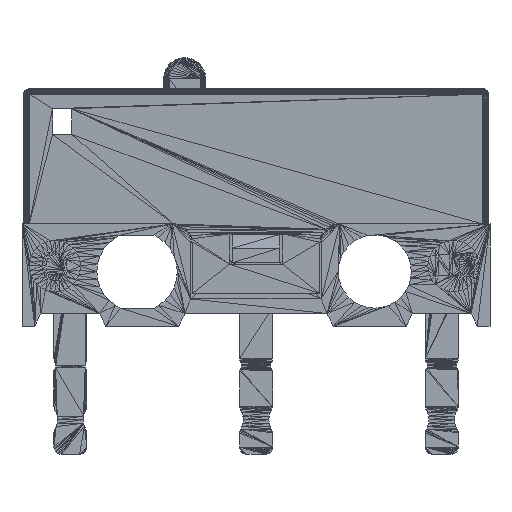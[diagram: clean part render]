
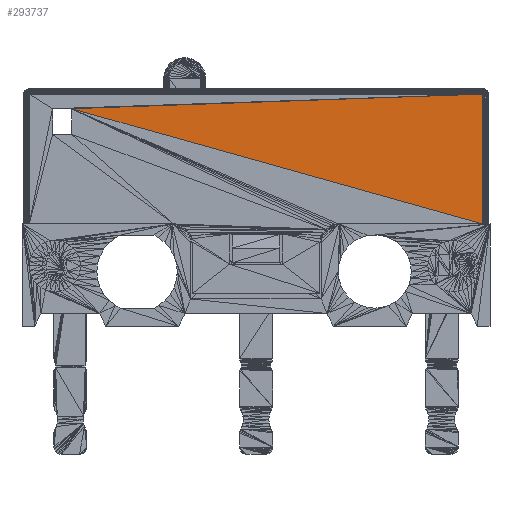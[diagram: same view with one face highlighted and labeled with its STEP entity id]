
A CAD part, front view. The second image highlights one B-rep face of the part: STEP entity #293737.
In plain terms, the highlighted planar face has unit normal (0, -1, 0).
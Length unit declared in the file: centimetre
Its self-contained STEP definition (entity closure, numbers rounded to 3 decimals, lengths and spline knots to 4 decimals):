
#12122=DIRECTION('',(0.,0.,-1.));
#23811=DIRECTION('',(-0.963,0.,0.27));
#23812=DIRECTION('',(-0.999,0.,-0.036));
#35844=VECTOR('',#12122,1.);
#47533=VECTOR('',#23811,1.);
#47534=VECTOR('',#23812,1.);
#49089=CARTESIAN_POINT('',(1.0293,-0.285,0.333));
#49090=CARTESIAN_POINT('',(1.0293,-0.285,-0.022));
#52374=CARTESIAN_POINT('',(-0.0942,-0.285,0.293));
#59051=VERTEX_POINT('',#49089);
#59052=VERTEX_POINT('',#49090);
#62336=VERTEX_POINT('',#52374);
#77640=LINE('',#49089,#47534);
#78056=LINE('',#49090,#47533);
#78057=LINE('',#49089,#35844);
#107550=EDGE_CURVE('',#59051,#62336,#77640,.T.);
#107966=EDGE_CURVE('',#59052,#62336,#78056,.T.);
#107967=EDGE_CURVE('',#59051,#59052,#78057,.T.);
#137460=ORIENTED_EDGE('',*,*,#107550,.T.);
#167786=ORIENTED_EDGE('',*,*,#107966,.F.);
#167787=ORIENTED_EDGE('',*,*,#107967,.F.);
#194052=EDGE_LOOP('',(#167786,#167787,#137460));
#213989=FACE_OUTER_BOUND('',#194052,.T.);
#240861=DIRECTION('',(0.,-1.,0.));
#240862=AXIS2_PLACEMENT_3D('',#52374,#240861,#23811);
#273800=PLANE('',#240862);
#293737=ADVANCED_FACE('',(#213989),#273800,.T.);
